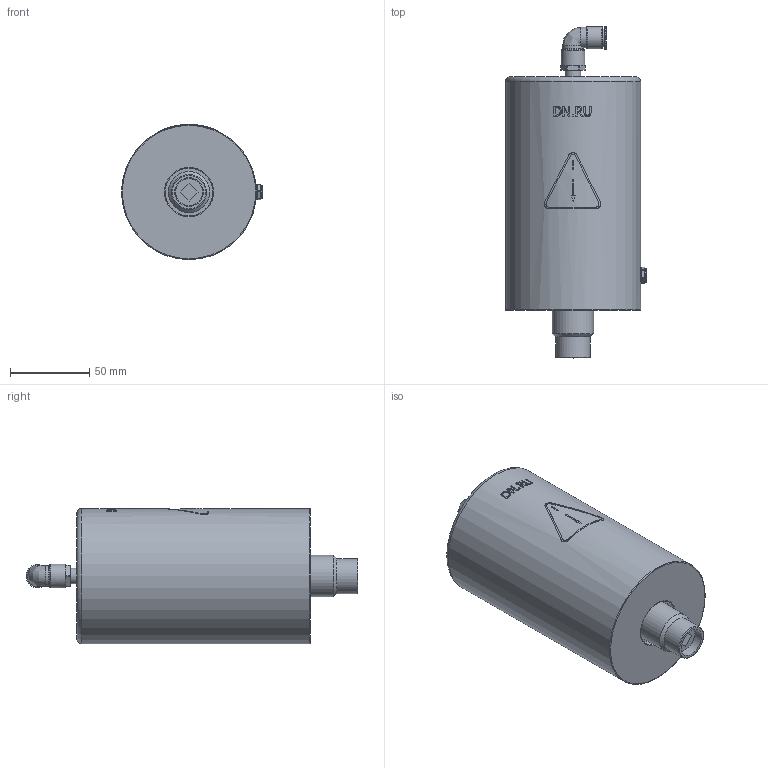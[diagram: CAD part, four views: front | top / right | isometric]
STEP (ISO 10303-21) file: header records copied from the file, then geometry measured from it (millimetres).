
FILE_DESCRIPTION(/* description */ ('D290-00341','CAx-IF Rec.Pracs.---Representation and Presentation of Product Manufacturing Information (PMI)---4.0---2014-10-13'),/* implementation_level */ '2;1');
FILE_NAME(/* name */ '',/* time_stamp */ '2026-04-17T00:02:00+03:00',/* author */ ('DN.RU'),/* organization */ (''),/* preprocessor_version */ 'ST-DEVELOPER v20',/* originating_system */ 'Autodesk Inventor 2025',/* authorisation */ '');
FILE_SCHEMA (('AP242_MANAGED_MODEL_BASED_3D_ENGINEERING_MIM_LF { 1 0 10303 442 1 1 4 }'));
Length unit declared in the file: millimetre
Products named in the file (1): PA-SA-85
Bounding box: 88.75 x 208.93 x 85.1 mm (x, y, z)
Volume: 847425.8 mm3; surface area: 62548.1 mm2
Topology: 1 solids, 1 shells, 192 faces, 476 edges, 310 vertices
Faces by surface type: plane 106, cylinder 49, bspline 24, torus 12, cone 1
Full cylindrical faces by diameter (mm): 5.896 x1, 7.534 x1, 8.533 x2, 9.73 x1, 10.198 x1, 11.437 x1, 13 x2, 14 x1, 14.678 x1, 15 x1, 17 x1, 18 x1, 22 x1, 26 x1, 30 x1, 85 x1
Entity records: 7120 total; most frequent: CARTESIAN_POINT 2075, DIRECTION 987, ORIENTED_EDGE 948, EDGE_CURVE 474, AXIS2_PLACEMENT_3D 382, VERTEX_POINT 310, STYLED_ITEM 237, LINE 223
